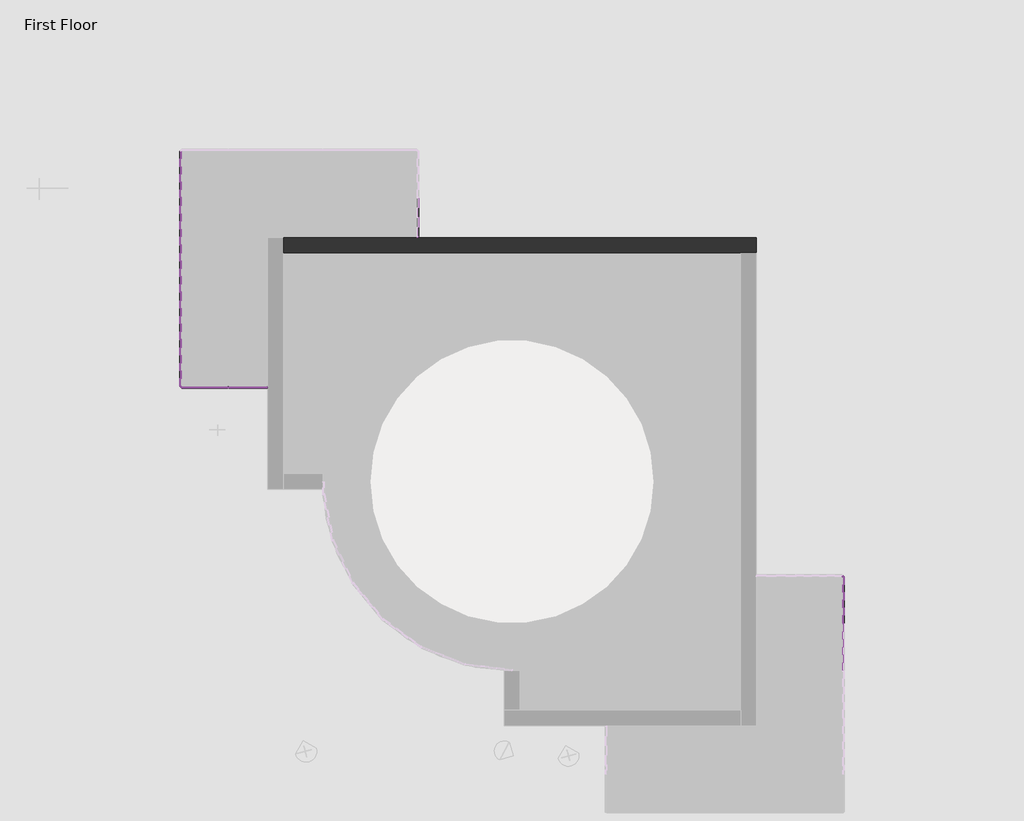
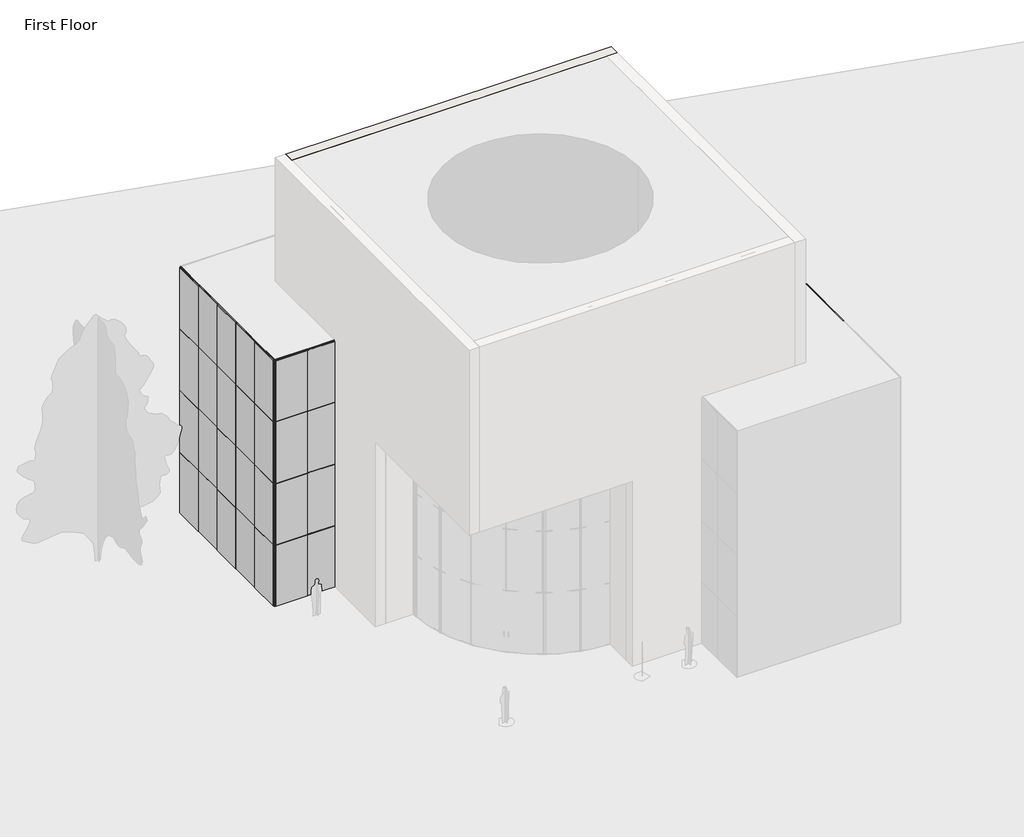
# One storey, part 3 of 4: 92 members, 36 plates, 1 wall.
"""IFC4 building model written with IfcOpenShell, lengths in millimetres."""

from ifc_helpers import new_model, si_unit, origin, place, context, project, spatial, faceted_brep, transform, mapped, element, save
from components import member_40ce1a5c, member_5e617a80, member_0d8d9af5, member_74941792, member_cbdb9076, member_7e523723, member_9fd3d903, member_6604d1e0, member_be0b070d, system_panel_glazed_9b7d687a, system_panel_glazed_3ccd4ad1, system_panel_glazed_9a901b4a, system_panel_glazed_ee91e337, system_panel_glazed_2d5e1d3d, system_panel_glazed_37964ea6, system_panel_glazed_a669fc9f, system_panel_glazed_51c864c8

model = new_model("IFC4")

# Units and contexts
model_context = context("Model", 3, world=origin())
ifc_project = project(units=[si_unit("LENGTHUNIT", "METRE", prefix="MILLI")], contexts=[model_context])

# Site, building, storey
site = spatial("IfcSite", under=ifc_project)
building = spatial("IfcBuilding", under=site)
storey = spatial("IfcBuildingStorey", under=building, Name="First Floor", Elevation=0.0)

# Members
placement = place(None, origin())
member_shape = member_40ce1a5c(model_context)
element("IfcMember", 1, ObjectType="Rectangular Mullion : 1\" Square", at=placement, inside=storey, context=model_context, shape_type="MappedRepresentation", body=[
    mapped(member_shape, transform((-10360.9806157, 2362.0139224, 6096.0), x_axis=(0.0, 0.0, 1.0), y_axis=(0.0, -1.0, 0.0), z_axis=(1.0, 0.0, 0.0))),
])
element("IfcMember", 2, ObjectType="Rectangular Mullion : 1\" Square", at=placement, inside=storey, context=model_context, shape_type="MappedRepresentation", body=[
    mapped(member_shape, transform((-10360.9806157, 2362.0139224, 9144.0), x_axis=(0.0, 0.0, 1.0), y_axis=(0.0, -1.0, 0.0), z_axis=(1.0, 0.0, 0.0))),
])
element("IfcMember", 3, ObjectType="Rectangular Mullion : 1\" Square", at=placement, inside=storey, context=model_context, shape_type="MappedRepresentation", body=[
    mapped(member_shape, transform((-10360.9806157, 2362.0139224, 3048.0), x_axis=(0.0, 0.0, 1.0), y_axis=(0.0, -1.0, 0.0), z_axis=(1.0, 0.0, 0.0))),
])
member_2_shape = member_5e617a80(model_context)
element("IfcMember", 4, ObjectType="Rectangular Mullion : 1\" Square", at=placement, inside=storey, context=model_context, shape_type="MappedRepresentation", body=[
    mapped(member_2_shape, transform((-11627.8056157, 2362.0139224, 9144.0), x_axis=(0.0, 0.0, 1.0), y_axis=(0.0, -1.0, 0.0), z_axis=(1.0, 0.0, 0.0))),
])
element("IfcMember", 5, ObjectType="Rectangular Mullion : 1\" Square", at=placement, inside=storey, context=model_context, shape_type="MappedRepresentation", body=[
    mapped(member_2_shape, transform((-11627.8056157, 2362.0139224, 6096.0), x_axis=(0.0, 0.0, 1.0), y_axis=(0.0, -1.0, 0.0), z_axis=(1.0, 0.0, 0.0))),
])
element("IfcMember", 6, ObjectType="Rectangular Mullion : 1\" Square", at=placement, inside=storey, context=model_context, shape_type="MappedRepresentation", body=[
    mapped(member_2_shape, transform((-11627.8056157, 2362.0139224, 3048.0), x_axis=(0.0, 0.0, 1.0), y_axis=(0.0, -1.0, 0.0), z_axis=(1.0, 0.0, 0.0))),
])
element("IfcMember", 7, ObjectType="Rectangular Mullion : 1\" Square", at=placement, inside=storey, context=model_context, shape_type="MappedRepresentation", body=[
    mapped(member_2_shape, transform((-13139.1056157, 8470.7139224, 3048.0), x_axis=(0.0, 0.0, 1.0), y_axis=(-1.0, 0.0, 0.0), z_axis=(0.0, -1.0, 0.0))),
])
element("IfcMember", 8, ObjectType="Rectangular Mullion : 1\" Square", at=placement, inside=storey, context=model_context, shape_type="MappedRepresentation", body=[
    mapped(member_2_shape, transform((-13139.1056157, 2387.4139224, 9144.0), x_axis=(0.0, 0.0, 1.0), y_axis=(-1.0, 0.0, 0.0), z_axis=(0.0, -1.0, 0.0))),
])
element("IfcMember", 9, ObjectType="Rectangular Mullion : 1\" Square", at=placement, inside=storey, context=model_context, shape_type="MappedRepresentation", body=[
    mapped(member_2_shape, transform((-13139.1056157, 2387.4139224, 3048.0), x_axis=(0.0, 0.0, 1.0), y_axis=(-1.0, 0.0, 0.0), z_axis=(0.0, -1.0, 0.0))),
])
element("IfcMember", 10, ObjectType="Rectangular Mullion : 1\" Square", at=placement, inside=storey, context=model_context, shape_type="MappedRepresentation", body=[
    mapped(member_2_shape, transform((-13139.1056157, 8470.7139224, 6096.0), x_axis=(0.0, 0.0, 1.0), y_axis=(-1.0, 0.0, 0.0), z_axis=(0.0, -1.0, 0.0))),
])
element("IfcMember", 11, ObjectType="Rectangular Mullion : 1\" Square", at=placement, inside=storey, context=model_context, shape_type="MappedRepresentation", body=[
    mapped(member_2_shape, transform((-13139.1056157, 2387.4139224, 6096.0), x_axis=(0.0, 0.0, 1.0), y_axis=(-1.0, 0.0, 0.0), z_axis=(0.0, -1.0, 0.0))),
])
element("IfcMember", 12, ObjectType="Rectangular Mullion : 1\" Square", at=placement, inside=storey, context=model_context, shape_type="MappedRepresentation", body=[
    mapped(member_2_shape, transform((-13139.1056157, 8470.7139224, 9144.0), x_axis=(0.0, 0.0, 1.0), y_axis=(-1.0, 0.0, 0.0), z_axis=(0.0, -1.0, 0.0))),
])
element("IfcMember", 13, ObjectType="Rectangular Mullion : 1\" Square", at=placement, inside=storey, context=model_context, shape_type="MappedRepresentation", body=[
    mapped(member_2_shape, transform((8196.8943843, -3759.3860776, 3048.0), x_axis=(0.0, 0.0, 1.0), y_axis=(1.0, 0.0, 0.0), z_axis=(0.0, 1.0, 0.0))),
])
element("IfcMember", 14, ObjectType="Rectangular Mullion : 1\" Square", at=placement, inside=storey, context=model_context, shape_type="MappedRepresentation", body=[
    mapped(member_2_shape, transform((8196.8943843, -3759.3860776, 6096.0), x_axis=(0.0, 0.0, 1.0), y_axis=(1.0, 0.0, 0.0), z_axis=(0.0, 1.0, 0.0))),
])
element("IfcMember", 15, ObjectType="Rectangular Mullion : 1\" Square", at=placement, inside=storey, context=model_context, shape_type="MappedRepresentation", body=[
    mapped(member_2_shape, transform((8196.8943843, -3759.3860776, 9144.0), x_axis=(0.0, 0.0, 1.0), y_axis=(1.0, 0.0, 0.0), z_axis=(0.0, 1.0, 0.0))),
])
member_3_shape = member_0d8d9af5(model_context)
element("IfcMember", 16, ObjectType="Rectangular Mullion : 1\" Square", at=placement, inside=storey, context=model_context, shape_type="MappedRepresentation", body=[
    mapped(member_3_shape, transform((-11602.4056157, 2362.0139224, 0.0), x_axis=(0.0, 0.0, -1.0), y_axis=(0.0, -1.0, 0.0), z_axis=(-1.0, 0.0, 0.0))),
])
member_4_shape = member_74941792(model_context)
element("IfcMember", 17, ObjectType="Rectangular Mullion : 1\" Square", at=placement, inside=storey, context=model_context, shape_type="MappedRepresentation", body=[
    mapped(member_4_shape, transform((-11627.8056157, 2362.0139224, 12192.0), x_axis=(0.0, 0.0, 1.0), y_axis=(0.0, -1.0, 0.0), z_axis=(1.0, 0.0, 0.0))),
])
element("IfcMember", 18, ObjectType="Rectangular Mullion : 1\" Square", at=placement, inside=storey, context=model_context, shape_type="MappedRepresentation", body=[
    mapped(member_4_shape, transform((-13139.1056157, 2387.4139224, 12192.0), x_axis=(0.0, 0.0, 1.0), y_axis=(-1.0, 0.0, 0.0), z_axis=(0.0, -1.0, 0.0))),
])
element("IfcMember", 19, ObjectType="Rectangular Mullion : 1\" Square", at=placement, inside=storey, context=model_context, shape_type="MappedRepresentation", body=[
    mapped(member_4_shape, transform((-13139.1056157, 8470.7139224, 12192.0), x_axis=(0.0, 0.0, 1.0), y_axis=(-1.0, 0.0, 0.0), z_axis=(0.0, -1.0, 0.0))),
])
element("IfcMember", 20, ObjectType="Rectangular Mullion : 1\" Square", at=placement, inside=storey, context=model_context, shape_type="MappedRepresentation", body=[
    mapped(member_4_shape, transform((8196.8943843, -3759.3860776, 12192.0), x_axis=(0.0, 0.0, 1.0), y_axis=(1.0, 0.0, 0.0), z_axis=(0.0, 1.0, 0.0))),
])
member_5_shape = member_cbdb9076(model_context)
element("IfcMember", 21, ObjectType="Rectangular Mullion : 1\" Square", at=placement, inside=storey, context=model_context, shape_type="MappedRepresentation", body=[
    mapped(member_5_shape, transform((-11615.1056157, 2362.0139224, 3048.0), x_axis=(1.0, 0.0, 0.0), y_axis=(0.0, -1.0, 0.0), z_axis=(0.0, 0.0, -1.0))),
])
element("IfcMember", 22, ObjectType="Rectangular Mullion : 1\" Square", at=placement, inside=storey, context=model_context, shape_type="MappedRepresentation", body=[
    mapped(member_5_shape, transform((-11615.1056157, 2362.0139224, 6096.0), x_axis=(1.0, 0.0, 0.0), y_axis=(0.0, -1.0, 0.0), z_axis=(0.0, 0.0, -1.0))),
])
element("IfcMember", 23, ObjectType="Rectangular Mullion : 1\" Square", at=placement, inside=storey, context=model_context, shape_type="MappedRepresentation", body=[
    mapped(member_5_shape, transform((-13139.1056157, 8458.0139224, 3048.0), x_axis=(0.0, -1.0, 0.0), y_axis=(-1.0, 0.0, 0.0), z_axis=(0.0, 0.0, -1.0))),
])
element("IfcMember", 24, ObjectType="Rectangular Mullion : 1\" Square", at=placement, inside=storey, context=model_context, shape_type="MappedRepresentation", body=[
    mapped(member_5_shape, transform((-13139.1056157, 8458.0139224, 6096.0), x_axis=(0.0, -1.0, 0.0), y_axis=(-1.0, 0.0, 0.0), z_axis=(0.0, 0.0, -1.0))),
])
element("IfcMember", 25, ObjectType="Rectangular Mullion : 1\" Square", at=placement, inside=storey, context=model_context, shape_type="MappedRepresentation", body=[
    mapped(member_5_shape, transform((-13139.1056157, 6934.0139224, 3048.0), x_axis=(0.0, -1.0, 0.0), y_axis=(-1.0, 0.0, 0.0), z_axis=(0.0, 0.0, -1.0))),
])
element("IfcMember", 26, ObjectType="Rectangular Mullion : 1\" Square", at=placement, inside=storey, context=model_context, shape_type="MappedRepresentation", body=[
    mapped(member_5_shape, transform((-13139.1056157, 6934.0139224, 6096.0), x_axis=(0.0, -1.0, 0.0), y_axis=(-1.0, 0.0, 0.0), z_axis=(0.0, 0.0, -1.0))),
])
element("IfcMember", 27, ObjectType="Rectangular Mullion : 1\" Square", at=placement, inside=storey, context=model_context, shape_type="MappedRepresentation", body=[
    mapped(member_5_shape, transform((-13139.1056157, 5410.0139224, 3048.0), x_axis=(0.0, -1.0, 0.0), y_axis=(-1.0, 0.0, 0.0), z_axis=(0.0, 0.0, -1.0))),
])
element("IfcMember", 28, ObjectType="Rectangular Mullion : 1\" Square", at=placement, inside=storey, context=model_context, shape_type="MappedRepresentation", body=[
    mapped(member_5_shape, transform((-13139.1056157, 5410.0139224, 6096.0), x_axis=(0.0, -1.0, 0.0), y_axis=(-1.0, 0.0, 0.0), z_axis=(0.0, 0.0, -1.0))),
])
element("IfcMember", 29, ObjectType="Rectangular Mullion : 1\" Square", at=placement, inside=storey, context=model_context, shape_type="MappedRepresentation", body=[
    mapped(member_5_shape, transform((-13139.1056157, 3886.0139224, 3048.0), x_axis=(0.0, -1.0, 0.0), y_axis=(-1.0, 0.0, 0.0), z_axis=(0.0, 0.0, -1.0))),
])
element("IfcMember", 30, ObjectType="Rectangular Mullion : 1\" Square", at=placement, inside=storey, context=model_context, shape_type="MappedRepresentation", body=[
    mapped(member_5_shape, transform((-13139.1056157, 3886.0139224, 6096.0), x_axis=(0.0, -1.0, 0.0), y_axis=(-1.0, 0.0, 0.0), z_axis=(0.0, 0.0, -1.0))),
])
element("IfcMember", 31, ObjectType="Rectangular Mullion : 1\" Square", at=placement, inside=storey, context=model_context, shape_type="MappedRepresentation", body=[
    mapped(member_5_shape, transform((-11615.1056157, 2362.0139224, 9144.0), x_axis=(1.0, 0.0, 0.0), y_axis=(0.0, -1.0, 0.0), z_axis=(0.0, 0.0, -1.0))),
])
element("IfcMember", 32, ObjectType="Rectangular Mullion : 1\" Square", at=placement, inside=storey, context=model_context, shape_type="MappedRepresentation", body=[
    mapped(member_5_shape, transform((-13139.1056157, 8458.0139224, 9144.0), x_axis=(0.0, -1.0, 0.0), y_axis=(-1.0, 0.0, 0.0), z_axis=(0.0, 0.0, -1.0))),
])
element("IfcMember", 33, ObjectType="Rectangular Mullion : 1\" Square", at=placement, inside=storey, context=model_context, shape_type="MappedRepresentation", body=[
    mapped(member_5_shape, transform((-13139.1056157, 6934.0139224, 9144.0), x_axis=(0.0, -1.0, 0.0), y_axis=(-1.0, 0.0, 0.0), z_axis=(0.0, 0.0, -1.0))),
])
element("IfcMember", 34, ObjectType="Rectangular Mullion : 1\" Square", at=placement, inside=storey, context=model_context, shape_type="MappedRepresentation", body=[
    mapped(member_5_shape, transform((-13139.1056157, 5410.0139224, 9144.0), x_axis=(0.0, -1.0, 0.0), y_axis=(-1.0, 0.0, 0.0), z_axis=(0.0, 0.0, -1.0))),
])
element("IfcMember", 35, ObjectType="Rectangular Mullion : 1\" Square", at=placement, inside=storey, context=model_context, shape_type="MappedRepresentation", body=[
    mapped(member_5_shape, transform((-13139.1056157, 3886.0139224, 9144.0), x_axis=(0.0, -1.0, 0.0), y_axis=(-1.0, 0.0, 0.0), z_axis=(0.0, 0.0, -1.0))),
])
element("IfcMember", 36, ObjectType="Rectangular Mullion : 1\" Square", at=placement, inside=storey, context=model_context, shape_type="MappedRepresentation", body=[
    mapped(member_5_shape, transform((-11615.1056157, 2362.0139224, 0.0), x_axis=(1.0, 0.0, 0.0), y_axis=(0.0, -1.0, 0.0), z_axis=(0.0, 0.0, -1.0))),
])
element("IfcMember", 37, ObjectType="Rectangular Mullion : 1\" Square", at=placement, inside=storey, context=model_context, shape_type="MappedRepresentation", body=[
    mapped(member_5_shape, transform((-13139.1056157, 8458.0139224, 0.0), x_axis=(0.0, -1.0, 0.0), y_axis=(-1.0, 0.0, 0.0), z_axis=(0.0, 0.0, -1.0))),
])
element("IfcMember", 38, ObjectType="Rectangular Mullion : 1\" Square", at=placement, inside=storey, context=model_context, shape_type="MappedRepresentation", body=[
    mapped(member_5_shape, transform((-13139.1056157, 6934.0139224, 0.0), x_axis=(0.0, -1.0, 0.0), y_axis=(-1.0, 0.0, 0.0), z_axis=(0.0, 0.0, -1.0))),
])
element("IfcMember", 39, ObjectType="Rectangular Mullion : 1\" Square", at=placement, inside=storey, context=model_context, shape_type="MappedRepresentation", body=[
    mapped(member_5_shape, transform((-13139.1056157, 5410.0139224, 0.0), x_axis=(0.0, -1.0, 0.0), y_axis=(-1.0, 0.0, 0.0), z_axis=(0.0, 0.0, -1.0))),
])
element("IfcMember", 40, ObjectType="Rectangular Mullion : 1\" Square", at=placement, inside=storey, context=model_context, shape_type="MappedRepresentation", body=[
    mapped(member_5_shape, transform((-13139.1056157, 3886.0139224, 0.0), x_axis=(0.0, -1.0, 0.0), y_axis=(-1.0, 0.0, 0.0), z_axis=(0.0, 0.0, -1.0))),
])
element("IfcMember", 41, ObjectType="Rectangular Mullion : 1\" Square", at=placement, inside=storey, context=model_context, shape_type="MappedRepresentation", body=[
    mapped(member_5_shape, transform((8196.8943843, -5257.9860776, 0.0), x_axis=(0.0, 1.0, 0.0), y_axis=(1.0, 0.0, 0.0), z_axis=(0.0, 0.0, -1.0))),
])
element("IfcMember", 42, ObjectType="Rectangular Mullion : 1\" Square", at=placement, inside=storey, context=model_context, shape_type="MappedRepresentation", body=[
    mapped(member_4_shape, transform((-13113.7056157, 2362.0139224, 0.0), x_axis=(0.0, 0.0, -1.0), y_axis=(0.0, -1.0, 0.0), z_axis=(-1.0, 0.0, 0.0))),
])
element("IfcMember", 43, ObjectType="Rectangular Mullion : 1\" Square", at=placement, inside=storey, context=model_context, shape_type="MappedRepresentation", body=[
    mapped(member_4_shape, transform((-13139.1056157, 9956.6139224, 0.0), x_axis=(0.0, 0.0, -1.0), y_axis=(-1.0, 0.0, 0.0), z_axis=(0.0, 1.0, 0.0))),
])
element("IfcMember", 44, ObjectType="Rectangular Mullion : 1\" Square", at=placement, inside=storey, context=model_context, shape_type="MappedRepresentation", body=[
    mapped(member_4_shape, transform((-13139.1056157, 3873.3139224, 0.0), x_axis=(0.0, 0.0, -1.0), y_axis=(-1.0, 0.0, 0.0), z_axis=(0.0, 1.0, 0.0))),
])
element("IfcMember", 45, ObjectType="Rectangular Mullion : 1\" Square", at=placement, inside=storey, context=model_context, shape_type="MappedRepresentation", body=[
    mapped(member_4_shape, transform((8196.8943843, -5245.2860776, 0.0), x_axis=(0.0, 0.0, -1.0), y_axis=(1.0, 0.0, 0.0), z_axis=(0.0, -1.0, 0.0))),
])
element("IfcMember", 46, ObjectType="Rectangular Mullion : 1\" Square", at=placement, inside=storey, context=model_context, shape_type="MappedRepresentation", body=[
    mapped(member_4_shape, transform((8171.4943843, -3733.9860776, 0.0), x_axis=(0.0, 0.0, -1.0), y_axis=(0.0, 1.0, 0.0), z_axis=(1.0, 0.0, 0.0))),
])
element("IfcMember", 47, ObjectType="Rectangular Mullion : 1\" Square", at=placement, inside=storey, context=model_context, shape_type="MappedRepresentation", body=[
    mapped(member_3_shape, transform((-10360.9806157, 2362.0139224, 12192.0), x_axis=(0.0, 0.0, 1.0), y_axis=(0.0, -1.0, 0.0), z_axis=(1.0, 0.0, 0.0))),
])
member_6_shape = member_7e523723(model_context)
element("IfcMember", 48, ObjectType="Rectangular Mullion : 1\" Square", at=placement, inside=storey, context=model_context, shape_type="MappedRepresentation", body=[
    mapped(member_6_shape, transform((-13139.1056157, 2362.0139224, 12192.0), x_axis=(-1.0, 0.0, 0.0), y_axis=(0.0, -1.0, 0.0), z_axis=(0.0, 0.0, 1.0))),
])
element("IfcMember", 49, ObjectType="Rectangular Mullion : 1\" Square", at=placement, inside=storey, context=model_context, shape_type="MappedRepresentation", body=[
    mapped(member_6_shape, transform((-13139.1056157, 9982.0139224, 12192.0), x_axis=(0.0, 1.0, 0.0), y_axis=(-1.0, 0.0, 0.0), z_axis=(0.0, 0.0, 1.0))),
])
element("IfcMember", 50, ObjectType="Rectangular Mullion : 1\" Square", at=placement, inside=storey, context=model_context, shape_type="MappedRepresentation", body=[
    mapped(member_6_shape, transform((8196.8943843, -3733.9860776, 12192.0), x_axis=(1.0, 0.0, 0.0), y_axis=(0.0, 1.0, 0.0), z_axis=(0.0, 0.0, 1.0))),
])
element("IfcMember", 51, ObjectType="Rectangular Mullion : 1\" Square", at=placement, inside=storey, context=model_context, shape_type="MappedRepresentation", body=[
    mapped(member_6_shape, transform((-5519.1056157, 7178.4889224, 12192.0), x_axis=(0.0, -1.0, 0.0), y_axis=(1.0, 0.0, 0.0), z_axis=(0.0, 0.0, 1.0))),
])
element("IfcMember", 52, ObjectType="Rectangular Mullion : 1\" Square", at=placement, inside=storey, context=model_context, shape_type="MappedRepresentation", body=[
    mapped(member_6_shape, transform((-10335.5806157, 2362.0139224, 3048.0), x_axis=(1.0, 0.0, 0.0), y_axis=(0.0, -1.0, 0.0), z_axis=(0.0, 0.0, -1.0))),
])
element("IfcMember", 53, ObjectType="Rectangular Mullion : 1\" Square", at=placement, inside=storey, context=model_context, shape_type="MappedRepresentation", body=[
    mapped(member_6_shape, transform((-10335.5806157, 2362.0139224, 6096.0), x_axis=(1.0, 0.0, 0.0), y_axis=(0.0, -1.0, 0.0), z_axis=(0.0, 0.0, -1.0))),
])
element("IfcMember", 54, ObjectType="Rectangular Mullion : 1\" Square", at=placement, inside=storey, context=model_context, shape_type="MappedRepresentation", body=[
    mapped(member_6_shape, transform((-13139.1056157, 2362.0139224, 3048.0), x_axis=(0.0, -1.0, 0.0), y_axis=(-1.0, 0.0, 0.0), z_axis=(0.0, 0.0, -1.0))),
])
element("IfcMember", 55, ObjectType="Rectangular Mullion : 1\" Square", at=placement, inside=storey, context=model_context, shape_type="MappedRepresentation", body=[
    mapped(member_6_shape, transform((-13139.1056157, 2362.0139224, 6096.0), x_axis=(0.0, -1.0, 0.0), y_axis=(-1.0, 0.0, 0.0), z_axis=(0.0, 0.0, -1.0))),
])
element("IfcMember", 56, ObjectType="Rectangular Mullion : 1\" Square", at=placement, inside=storey, context=model_context, shape_type="MappedRepresentation", body=[
    mapped(member_6_shape, transform((8196.8943843, -3733.9860776, 3048.0), x_axis=(0.0, 1.0, 0.0), y_axis=(1.0, 0.0, 0.0), z_axis=(0.0, 0.0, -1.0))),
])
element("IfcMember", 57, ObjectType="Rectangular Mullion : 1\" Square", at=placement, inside=storey, context=model_context, shape_type="MappedRepresentation", body=[
    mapped(member_6_shape, transform((8196.8943843, -3733.9860776, 6096.0), x_axis=(0.0, 1.0, 0.0), y_axis=(1.0, 0.0, 0.0), z_axis=(0.0, 0.0, -1.0))),
])
element("IfcMember", 58, ObjectType="Rectangular Mullion : 1\" Square", at=placement, inside=storey, context=model_context, shape_type="MappedRepresentation", body=[
    mapped(member_6_shape, transform((-10335.5806157, 2362.0139224, 9144.0), x_axis=(1.0, 0.0, 0.0), y_axis=(0.0, -1.0, 0.0), z_axis=(0.0, 0.0, -1.0))),
])
element("IfcMember", 59, ObjectType="Rectangular Mullion : 1\" Square", at=placement, inside=storey, context=model_context, shape_type="MappedRepresentation", body=[
    mapped(member_6_shape, transform((-13139.1056157, 2362.0139224, 9144.0), x_axis=(0.0, -1.0, 0.0), y_axis=(-1.0, 0.0, 0.0), z_axis=(0.0, 0.0, -1.0))),
])
element("IfcMember", 60, ObjectType="Rectangular Mullion : 1\" Square", at=placement, inside=storey, context=model_context, shape_type="MappedRepresentation", body=[
    mapped(member_6_shape, transform((8196.8943843, -3733.9860776, 9144.0), x_axis=(0.0, 1.0, 0.0), y_axis=(1.0, 0.0, 0.0), z_axis=(0.0, 0.0, -1.0))),
])
element("IfcMember", 61, ObjectType="Rectangular Mullion : 1\" Square", at=placement, inside=storey, context=model_context, shape_type="MappedRepresentation", body=[
    mapped(member_6_shape, transform((-13139.1056157, 2362.0139224, 3048.0), x_axis=(-1.0, 0.0, 0.0), y_axis=(0.0, -1.0, 0.0), z_axis=(0.0, 0.0, 1.0))),
])
element("IfcMember", 62, ObjectType="Rectangular Mullion : 1\" Square", at=placement, inside=storey, context=model_context, shape_type="MappedRepresentation", body=[
    mapped(member_6_shape, transform((8196.8943843, -3733.9860776, 3048.0), x_axis=(1.0, 0.0, 0.0), y_axis=(0.0, 1.0, 0.0), z_axis=(0.0, 0.0, 1.0))),
])
element("IfcMember", 63, ObjectType="Rectangular Mullion : 1\" Square", at=placement, inside=storey, context=model_context, shape_type="MappedRepresentation", body=[
    mapped(member_6_shape, transform((-5519.1056157, 7178.4889224, 3048.0), x_axis=(0.0, -1.0, 0.0), y_axis=(1.0, 0.0, 0.0), z_axis=(0.0, 0.0, 1.0))),
])
element("IfcMember", 64, ObjectType="Rectangular Mullion : 1\" Square", at=placement, inside=storey, context=model_context, shape_type="MappedRepresentation", body=[
    mapped(member_6_shape, transform((-13139.1056157, 2362.0139224, 6096.0), x_axis=(-1.0, 0.0, 0.0), y_axis=(0.0, -1.0, 0.0), z_axis=(0.0, 0.0, 1.0))),
])
element("IfcMember", 65, ObjectType="Rectangular Mullion : 1\" Square", at=placement, inside=storey, context=model_context, shape_type="MappedRepresentation", body=[
    mapped(member_6_shape, transform((-13139.1056157, 2362.0139224, 9144.0), x_axis=(-1.0, 0.0, 0.0), y_axis=(0.0, -1.0, 0.0), z_axis=(0.0, 0.0, 1.0))),
])
element("IfcMember", 66, ObjectType="Rectangular Mullion : 1\" Square", at=placement, inside=storey, context=model_context, shape_type="MappedRepresentation", body=[
    mapped(member_6_shape, transform((8196.8943843, -3733.9860776, 6096.0), x_axis=(1.0, 0.0, 0.0), y_axis=(0.0, 1.0, 0.0), z_axis=(0.0, 0.0, 1.0))),
])
element("IfcMember", 67, ObjectType="Rectangular Mullion : 1\" Square", at=placement, inside=storey, context=model_context, shape_type="MappedRepresentation", body=[
    mapped(member_6_shape, transform((8196.8943843, -3733.9860776, 9144.0), x_axis=(1.0, 0.0, 0.0), y_axis=(0.0, 1.0, 0.0), z_axis=(0.0, 0.0, 1.0))),
])
element("IfcMember", 68, ObjectType="Rectangular Mullion : 1\" Square", at=placement, inside=storey, context=model_context, shape_type="MappedRepresentation", body=[
    mapped(member_6_shape, transform((-5519.1056157, 7178.4889224, 6096.0), x_axis=(0.0, -1.0, 0.0), y_axis=(1.0, 0.0, 0.0), z_axis=(0.0, 0.0, 1.0))),
])
element("IfcMember", 69, ObjectType="Rectangular Mullion : 1\" Square", at=placement, inside=storey, context=model_context, shape_type="MappedRepresentation", body=[
    mapped(member_6_shape, transform((-5519.1056157, 7178.4889224, 9144.0), x_axis=(0.0, -1.0, 0.0), y_axis=(1.0, 0.0, 0.0), z_axis=(0.0, 0.0, 1.0))),
])
element("IfcMember", 70, ObjectType="Rectangular Mullion : 1\" Square", at=placement, inside=storey, context=model_context, shape_type="MappedRepresentation", body=[
    mapped(member_6_shape, transform((-10335.5806157, 2362.0139224, 0.0), x_axis=(1.0, 0.0, 0.0), y_axis=(0.0, -1.0, 0.0), z_axis=(0.0, 0.0, -1.0))),
])
element("IfcMember", 71, ObjectType="Rectangular Mullion : 1\" Square", at=placement, inside=storey, context=model_context, shape_type="MappedRepresentation", body=[
    mapped(member_6_shape, transform((-13139.1056157, 2362.0139224, 0.0), x_axis=(0.0, -1.0, 0.0), y_axis=(-1.0, 0.0, 0.0), z_axis=(0.0, 0.0, -1.0))),
])
element("IfcMember", 72, ObjectType="Rectangular Mullion : 1\" Square", at=placement, inside=storey, context=model_context, shape_type="MappedRepresentation", body=[
    mapped(member_6_shape, transform((8196.8943843, -3733.9860776, 0.0), x_axis=(0.0, 1.0, 0.0), y_axis=(1.0, 0.0, 0.0), z_axis=(0.0, 0.0, -1.0))),
])
member_7_shape = member_9fd3d903(model_context)
element("IfcMember", 73, ObjectType="Rectangular Mullion : 1\" Square", at=placement, inside=storey, context=model_context, shape_type="MappedRepresentation", body=[
    mapped(member_7_shape, transform((-13139.1056157, 6946.7139224, 3048.0), x_axis=(0.0, 0.0, 1.0), y_axis=(-1.0, 0.0, 0.0), z_axis=(0.0, -1.0, 0.0))),
])
element("IfcMember", 74, ObjectType="Rectangular Mullion : 1\" Square", at=placement, inside=storey, context=model_context, shape_type="MappedRepresentation", body=[
    mapped(member_7_shape, transform((-13139.1056157, 5422.7139224, 3048.0), x_axis=(0.0, 0.0, 1.0), y_axis=(-1.0, 0.0, 0.0), z_axis=(0.0, -1.0, 0.0))),
])
element("IfcMember", 75, ObjectType="Rectangular Mullion : 1\" Square", at=placement, inside=storey, context=model_context, shape_type="MappedRepresentation", body=[
    mapped(member_7_shape, transform((-13139.1056157, 3898.7139224, 3048.0), x_axis=(0.0, 0.0, 1.0), y_axis=(-1.0, 0.0, 0.0), z_axis=(0.0, -1.0, 0.0))),
])
element("IfcMember", 76, ObjectType="Rectangular Mullion : 1\" Square", at=placement, inside=storey, context=model_context, shape_type="MappedRepresentation", body=[
    mapped(member_7_shape, transform((-13139.1056157, 6946.7139224, 6096.0), x_axis=(0.0, 0.0, 1.0), y_axis=(-1.0, 0.0, 0.0), z_axis=(0.0, -1.0, 0.0))),
])
element("IfcMember", 77, ObjectType="Rectangular Mullion : 1\" Square", at=placement, inside=storey, context=model_context, shape_type="MappedRepresentation", body=[
    mapped(member_7_shape, transform((-13139.1056157, 5422.7139224, 6096.0), x_axis=(0.0, 0.0, 1.0), y_axis=(-1.0, 0.0, 0.0), z_axis=(0.0, -1.0, 0.0))),
])
element("IfcMember", 78, ObjectType="Rectangular Mullion : 1\" Square", at=placement, inside=storey, context=model_context, shape_type="MappedRepresentation", body=[
    mapped(member_7_shape, transform((-13139.1056157, 3898.7139224, 6096.0), x_axis=(0.0, 0.0, 1.0), y_axis=(-1.0, 0.0, 0.0), z_axis=(0.0, -1.0, 0.0))),
])
element("IfcMember", 79, ObjectType="Rectangular Mullion : 1\" Square", at=placement, inside=storey, context=model_context, shape_type="MappedRepresentation", body=[
    mapped(member_7_shape, transform((-13139.1056157, 6946.7139224, 9144.0), x_axis=(0.0, 0.0, 1.0), y_axis=(-1.0, 0.0, 0.0), z_axis=(0.0, -1.0, 0.0))),
])
element("IfcMember", 80, ObjectType="Rectangular Mullion : 1\" Square", at=placement, inside=storey, context=model_context, shape_type="MappedRepresentation", body=[
    mapped(member_7_shape, transform((-13139.1056157, 5422.7139224, 9144.0), x_axis=(0.0, 0.0, 1.0), y_axis=(-1.0, 0.0, 0.0), z_axis=(0.0, -1.0, 0.0))),
])
element("IfcMember", 81, ObjectType="Rectangular Mullion : 1\" Square", at=placement, inside=storey, context=model_context, shape_type="MappedRepresentation", body=[
    mapped(member_7_shape, transform((-13139.1056157, 3898.7139224, 9144.0), x_axis=(0.0, 0.0, 1.0), y_axis=(-1.0, 0.0, 0.0), z_axis=(0.0, -1.0, 0.0))),
])
element("IfcMember", 82, ObjectType="Rectangular Mullion : 1\" Square", at=placement, inside=storey, context=model_context, shape_type="MappedRepresentation", body=[
    mapped(member_7_shape, transform((8196.8943843, -5270.6860776, 3048.0), x_axis=(0.0, 0.0, 1.0), y_axis=(1.0, 0.0, 0.0), z_axis=(0.0, 1.0, 0.0))),
])
element("IfcMember", 83, ObjectType="Rectangular Mullion : 1\" Square", at=placement, inside=storey, context=model_context, shape_type="MappedRepresentation", body=[
    mapped(member_7_shape, transform((8196.8943843, -5270.6860776, 6096.0), x_axis=(0.0, 0.0, 1.0), y_axis=(1.0, 0.0, 0.0), z_axis=(0.0, 1.0, 0.0))),
])
element("IfcMember", 84, ObjectType="Rectangular Mullion : 1\" Square", at=placement, inside=storey, context=model_context, shape_type="MappedRepresentation", body=[
    mapped(member_7_shape, transform((8196.8943843, -5270.6860776, 9144.0), x_axis=(0.0, 0.0, 1.0), y_axis=(1.0, 0.0, 0.0), z_axis=(0.0, 1.0, 0.0))),
])
member_8_shape = member_6604d1e0(model_context)
element("IfcMember", 85, ObjectType="Rectangular Mullion : 1\" Square", at=placement, inside=storey, context=model_context, shape_type="MappedRepresentation", body=[
    mapped(member_8_shape, transform((-13139.1056157, 3898.7139224, 12192.0), x_axis=(0.0, 0.0, 1.0), y_axis=(-1.0, 0.0, 0.0), z_axis=(0.0, -1.0, 0.0))),
])
element("IfcMember", 86, ObjectType="Rectangular Mullion : 1\" Square", at=placement, inside=storey, context=model_context, shape_type="MappedRepresentation", body=[
    mapped(member_8_shape, transform((-13139.1056157, 6946.7139224, 12192.0), x_axis=(0.0, 0.0, 1.0), y_axis=(-1.0, 0.0, 0.0), z_axis=(0.0, -1.0, 0.0))),
])
element("IfcMember", 87, ObjectType="Rectangular Mullion : 1\" Square", at=placement, inside=storey, context=model_context, shape_type="MappedRepresentation", body=[
    mapped(member_8_shape, transform((-13139.1056157, 5422.7139224, 12192.0), x_axis=(0.0, 0.0, 1.0), y_axis=(-1.0, 0.0, 0.0), z_axis=(0.0, -1.0, 0.0))),
])
element("IfcMember", 88, ObjectType="Rectangular Mullion : 1\" Square", at=placement, inside=storey, context=model_context, shape_type="MappedRepresentation", body=[
    mapped(member_8_shape, transform((8196.8943843, -5270.6860776, 12192.0), x_axis=(0.0, 0.0, 1.0), y_axis=(1.0, 0.0, 0.0), z_axis=(0.0, 1.0, 0.0))),
])
element("IfcMember", 89, ObjectType="Rectangular Mullion : 1\" Square", at=placement, inside=storey, context=model_context, shape_type="MappedRepresentation", body=[
    mapped(member_8_shape, transform((-13139.1056157, 8445.3139224, 0.0), x_axis=(0.0, 0.0, -1.0), y_axis=(-1.0, 0.0, 0.0), z_axis=(0.0, 1.0, 0.0))),
])
element("IfcMember", 90, ObjectType="Rectangular Mullion : 1\" Square", at=placement, inside=storey, context=model_context, shape_type="MappedRepresentation", body=[
    mapped(member_8_shape, transform((-13139.1056157, 6921.3139224, 0.0), x_axis=(0.0, 0.0, -1.0), y_axis=(-1.0, 0.0, 0.0), z_axis=(0.0, 1.0, 0.0))),
])
element("IfcMember", 91, ObjectType="Rectangular Mullion : 1\" Square", at=placement, inside=storey, context=model_context, shape_type="MappedRepresentation", body=[
    mapped(member_8_shape, transform((-13139.1056157, 5397.3139224, 0.0), x_axis=(0.0, 0.0, -1.0), y_axis=(-1.0, 0.0, 0.0), z_axis=(0.0, 1.0, 0.0))),
])
member_9_shape = member_be0b070d(model_context)
element("IfcMember", 92, ObjectType="Rectangular Mullion : 1\" Square", at=placement, inside=storey, context=model_context, shape_type="MappedRepresentation", body=[
    mapped(member_9_shape, transform((-5519.1056157, 7203.8889224, 0.0), x_axis=(0.0, 0.0, -1.0), y_axis=(1.0, 0.0, 0.0), z_axis=(0.0, -1.0, 0.0))),
])

# Plates
system_panel_glazed_shape = system_panel_glazed_9b7d687a(model_context)
element("IfcPlate", 93, ObjectType="System Panel : Glazed", at=placement, inside=storey, context=model_context, shape_type="MappedRepresentation", body=[
    mapped(system_panel_glazed_shape, transform((-13139.1056157, 9213.6639224, 25.4), x_axis=(0.0, -1.0, 0.0), y_axis=(1.0, 0.0, 0.0), z_axis=(0.0, 0.0, 1.0))),
])
element("IfcPlate", 94, ObjectType="System Panel : Glazed", at=placement, inside=storey, context=model_context, shape_type="MappedRepresentation", body=[
    mapped(system_panel_glazed_shape, transform((-13139.1056157, 3130.3639224, 25.4), x_axis=(0.0, -1.0, 0.0), y_axis=(1.0, 0.0, 0.0), z_axis=(0.0, 0.0, 1.0))),
])
element("IfcPlate", 95, ObjectType="System Panel : Glazed", at=placement, inside=storey, context=model_context, shape_type="MappedRepresentation", body=[
    mapped(system_panel_glazed_shape, transform((-13139.1056157, 9213.6639224, 9156.7), x_axis=(0.0, -1.0, 0.0), y_axis=(1.0, 0.0, 0.0), z_axis=(0.0, 0.0, 1.0))),
])
element("IfcPlate", 96, ObjectType="System Panel : Glazed", at=placement, inside=storey, context=model_context, shape_type="MappedRepresentation", body=[
    mapped(system_panel_glazed_shape, transform((-13139.1056157, 3130.3639224, 9156.7), x_axis=(0.0, -1.0, 0.0), y_axis=(1.0, 0.0, 0.0), z_axis=(0.0, 0.0, 1.0))),
])
element("IfcPlate", 97, ObjectType="System Panel : Glazed", at=placement, inside=storey, context=model_context, shape_type="MappedRepresentation", body=[
    mapped(system_panel_glazed_shape, transform((-12370.7556157, 2362.0139224, 25.4), x_axis=(1.0, 0.0, 0.0), y_axis=(0.0, 1.0, 0.0), z_axis=(0.0, 0.0, 1.0))),
])
element("IfcPlate", 98, ObjectType="System Panel : Glazed", at=placement, inside=storey, context=model_context, shape_type="MappedRepresentation", body=[
    mapped(system_panel_glazed_shape, transform((-12370.7556157, 2362.0139224, 9156.7), x_axis=(1.0, 0.0, 0.0), y_axis=(0.0, 1.0, 0.0), z_axis=(0.0, 0.0, 1.0))),
])
element("IfcPlate", 99, ObjectType="System Panel : Glazed", at=placement, inside=storey, context=model_context, shape_type="MappedRepresentation", body=[
    mapped(system_panel_glazed_shape, transform((8196.8943843, -4502.3360776, 25.4), x_axis=(0.0, 1.0, 0.0), y_axis=(-1.0, 0.0, 0.0), z_axis=(0.0, 0.0, 1.0))),
])
element("IfcPlate", 100, ObjectType="System Panel : Glazed", at=placement, inside=storey, context=model_context, shape_type="MappedRepresentation", body=[
    mapped(system_panel_glazed_shape, transform((8196.8943843, -4502.3360776, 9156.7), x_axis=(0.0, 1.0, 0.0), y_axis=(-1.0, 0.0, 0.0), z_axis=(0.0, 0.0, 1.0))),
])
system_panel_glazed_2_shape = system_panel_glazed_3ccd4ad1(model_context)
element("IfcPlate", 101, ObjectType="System Panel : Glazed", at=placement, inside=storey, context=model_context, shape_type="MappedRepresentation", body=[
    mapped(system_panel_glazed_2_shape, transform((-10981.6931157, 2362.0139224, 25.4), x_axis=(1.0, 0.0, 0.0), y_axis=(0.0, 1.0, 0.0), z_axis=(0.0, 0.0, 1.0))),
])
element("IfcPlate", 102, ObjectType="System Panel : Glazed", at=placement, inside=storey, context=model_context, shape_type="MappedRepresentation", body=[
    mapped(system_panel_glazed_2_shape, transform((-10981.6931157, 2362.0139224, 9156.7), x_axis=(1.0, 0.0, 0.0), y_axis=(0.0, 1.0, 0.0), z_axis=(0.0, 0.0, 1.0))),
])
system_panel_glazed_3_shape = system_panel_glazed_9a901b4a(model_context)
element("IfcPlate", 103, ObjectType="System Panel : Glazed", at=placement, inside=storey, context=model_context, shape_type="MappedRepresentation", body=[
    mapped(system_panel_glazed_3_shape, transform((-13139.1056157, 9213.6639224, 3060.7), x_axis=(0.0, -1.0, 0.0), y_axis=(1.0, 0.0, 0.0), z_axis=(0.0, 0.0, 1.0))),
])
element("IfcPlate", 104, ObjectType="System Panel : Glazed", at=placement, inside=storey, context=model_context, shape_type="MappedRepresentation", body=[
    mapped(system_panel_glazed_3_shape, transform((-13139.1056157, 3130.3639224, 3060.7), x_axis=(0.0, -1.0, 0.0), y_axis=(1.0, 0.0, 0.0), z_axis=(0.0, 0.0, 1.0))),
])
element("IfcPlate", 105, ObjectType="System Panel : Glazed", at=placement, inside=storey, context=model_context, shape_type="MappedRepresentation", body=[
    mapped(system_panel_glazed_3_shape, transform((-13139.1056157, 9213.6639224, 6108.7), x_axis=(0.0, -1.0, 0.0), y_axis=(1.0, 0.0, 0.0), z_axis=(0.0, 0.0, 1.0))),
])
element("IfcPlate", 106, ObjectType="System Panel : Glazed", at=placement, inside=storey, context=model_context, shape_type="MappedRepresentation", body=[
    mapped(system_panel_glazed_3_shape, transform((-13139.1056157, 3130.3639224, 6108.7), x_axis=(0.0, -1.0, 0.0), y_axis=(1.0, 0.0, 0.0), z_axis=(0.0, 0.0, 1.0))),
])
element("IfcPlate", 107, ObjectType="System Panel : Glazed", at=placement, inside=storey, context=model_context, shape_type="MappedRepresentation", body=[
    mapped(system_panel_glazed_3_shape, transform((-12370.7556157, 2362.0139224, 3060.7), x_axis=(1.0, 0.0, 0.0), y_axis=(0.0, 1.0, 0.0), z_axis=(0.0, 0.0, 1.0))),
])
element("IfcPlate", 108, ObjectType="System Panel : Glazed", at=placement, inside=storey, context=model_context, shape_type="MappedRepresentation", body=[
    mapped(system_panel_glazed_3_shape, transform((-12370.7556157, 2362.0139224, 6108.7), x_axis=(1.0, 0.0, 0.0), y_axis=(0.0, 1.0, 0.0), z_axis=(0.0, 0.0, 1.0))),
])
element("IfcPlate", 109, ObjectType="System Panel : Glazed", at=placement, inside=storey, context=model_context, shape_type="MappedRepresentation", body=[
    mapped(system_panel_glazed_3_shape, transform((8196.8943843, -4502.3360776, 3060.7), x_axis=(0.0, 1.0, 0.0), y_axis=(-1.0, 0.0, 0.0), z_axis=(0.0, 0.0, 1.0))),
])
element("IfcPlate", 110, ObjectType="System Panel : Glazed", at=placement, inside=storey, context=model_context, shape_type="MappedRepresentation", body=[
    mapped(system_panel_glazed_3_shape, transform((8196.8943843, -4502.3360776, 6108.7), x_axis=(0.0, 1.0, 0.0), y_axis=(-1.0, 0.0, 0.0), z_axis=(0.0, 0.0, 1.0))),
])
system_panel_glazed_4_shape = system_panel_glazed_ee91e337(model_context)
element("IfcPlate", 111, ObjectType="System Panel : Glazed", at=placement, inside=storey, context=model_context, shape_type="MappedRepresentation", body=[
    mapped(system_panel_glazed_4_shape, transform((-10981.6931157, 2362.0139224, 3060.7), x_axis=(1.0, 0.0, 0.0), y_axis=(0.0, 1.0, 0.0), z_axis=(0.0, 0.0, 1.0))),
])
element("IfcPlate", 112, ObjectType="System Panel : Glazed", at=placement, inside=storey, context=model_context, shape_type="MappedRepresentation", body=[
    mapped(system_panel_glazed_4_shape, transform((-10981.6931157, 2362.0139224, 6108.7), x_axis=(1.0, 0.0, 0.0), y_axis=(0.0, 1.0, 0.0), z_axis=(0.0, 0.0, 1.0))),
])
system_panel_glazed_5_shape = system_panel_glazed_2d5e1d3d(model_context)
element("IfcPlate", 113, ObjectType="System Panel : Glazed", at=placement, inside=storey, context=model_context, shape_type="MappedRepresentation", body=[
    mapped(system_panel_glazed_5_shape, transform((-13139.1056157, 7696.0139224, 25.4), x_axis=(0.0, -1.0, 0.0), y_axis=(1.0, 0.0, 0.0), z_axis=(0.0, 0.0, 1.0))),
])
element("IfcPlate", 114, ObjectType="System Panel : Glazed", at=placement, inside=storey, context=model_context, shape_type="MappedRepresentation", body=[
    mapped(system_panel_glazed_5_shape, transform((-13139.1056157, 6172.0139224, 25.4), x_axis=(0.0, -1.0, 0.0), y_axis=(1.0, 0.0, 0.0), z_axis=(0.0, 0.0, 1.0))),
])
element("IfcPlate", 115, ObjectType="System Panel : Glazed", at=placement, inside=storey, context=model_context, shape_type="MappedRepresentation", body=[
    mapped(system_panel_glazed_5_shape, transform((-13139.1056157, 4648.0139224, 25.4), x_axis=(0.0, -1.0, 0.0), y_axis=(1.0, 0.0, 0.0), z_axis=(0.0, 0.0, 1.0))),
])
element("IfcPlate", 116, ObjectType="System Panel : Glazed", at=placement, inside=storey, context=model_context, shape_type="MappedRepresentation", body=[
    mapped(system_panel_glazed_5_shape, transform((-13139.1056157, 7696.0139224, 9156.7), x_axis=(0.0, -1.0, 0.0), y_axis=(1.0, 0.0, 0.0), z_axis=(0.0, 0.0, 1.0))),
])
element("IfcPlate", 117, ObjectType="System Panel : Glazed", at=placement, inside=storey, context=model_context, shape_type="MappedRepresentation", body=[
    mapped(system_panel_glazed_5_shape, transform((-13139.1056157, 6172.0139224, 9156.7), x_axis=(0.0, -1.0, 0.0), y_axis=(1.0, 0.0, 0.0), z_axis=(0.0, 0.0, 1.0))),
])
element("IfcPlate", 118, ObjectType="System Panel : Glazed", at=placement, inside=storey, context=model_context, shape_type="MappedRepresentation", body=[
    mapped(system_panel_glazed_5_shape, transform((-13139.1056157, 4648.0139224, 9156.7), x_axis=(0.0, -1.0, 0.0), y_axis=(1.0, 0.0, 0.0), z_axis=(0.0, 0.0, 1.0))),
])
system_panel_glazed_6_shape = system_panel_glazed_37964ea6(model_context)
element("IfcPlate", 119, ObjectType="System Panel : Glazed", at=placement, inside=storey, context=model_context, shape_type="MappedRepresentation", body=[
    mapped(system_panel_glazed_6_shape, transform((-13139.1056157, 7696.0139224, 3060.7), x_axis=(0.0, -1.0, 0.0), y_axis=(1.0, 0.0, 0.0), z_axis=(0.0, 0.0, 1.0))),
])
element("IfcPlate", 120, ObjectType="System Panel : Glazed", at=placement, inside=storey, context=model_context, shape_type="MappedRepresentation", body=[
    mapped(system_panel_glazed_6_shape, transform((-13139.1056157, 6172.0139224, 3060.7), x_axis=(0.0, -1.0, 0.0), y_axis=(1.0, 0.0, 0.0), z_axis=(0.0, 0.0, 1.0))),
])
element("IfcPlate", 121, ObjectType="System Panel : Glazed", at=placement, inside=storey, context=model_context, shape_type="MappedRepresentation", body=[
    mapped(system_panel_glazed_6_shape, transform((-13139.1056157, 4648.0139224, 3060.7), x_axis=(0.0, -1.0, 0.0), y_axis=(1.0, 0.0, 0.0), z_axis=(0.0, 0.0, 1.0))),
])
element("IfcPlate", 122, ObjectType="System Panel : Glazed", at=placement, inside=storey, context=model_context, shape_type="MappedRepresentation", body=[
    mapped(system_panel_glazed_6_shape, transform((-13139.1056157, 7696.0139224, 6108.7), x_axis=(0.0, -1.0, 0.0), y_axis=(1.0, 0.0, 0.0), z_axis=(0.0, 0.0, 1.0))),
])
element("IfcPlate", 123, ObjectType="System Panel : Glazed", at=placement, inside=storey, context=model_context, shape_type="MappedRepresentation", body=[
    mapped(system_panel_glazed_6_shape, transform((-13139.1056157, 6172.0139224, 6108.7), x_axis=(0.0, -1.0, 0.0), y_axis=(1.0, 0.0, 0.0), z_axis=(0.0, 0.0, 1.0))),
])
element("IfcPlate", 124, ObjectType="System Panel : Glazed", at=placement, inside=storey, context=model_context, shape_type="MappedRepresentation", body=[
    mapped(system_panel_glazed_6_shape, transform((-13139.1056157, 4648.0139224, 6108.7), x_axis=(0.0, -1.0, 0.0), y_axis=(1.0, 0.0, 0.0), z_axis=(0.0, 0.0, 1.0))),
])
system_panel_glazed_7_shape = system_panel_glazed_a669fc9f(model_context)
element("IfcPlate", 125, ObjectType="System Panel : Glazed", at=placement, inside=storey, context=model_context, shape_type="MappedRepresentation", body=[
    mapped(system_panel_glazed_7_shape, transform((-5519.1056157, 7823.0139224, 25.4), x_axis=(0.0, 1.0, 0.0), y_axis=(-1.0, 0.0, 0.0), z_axis=(0.0, 0.0, 1.0))),
])
element("IfcPlate", 126, ObjectType="System Panel : Glazed", at=placement, inside=storey, context=model_context, shape_type="MappedRepresentation", body=[
    mapped(system_panel_glazed_7_shape, transform((-5519.1056157, 7823.0139224, 9156.7), x_axis=(0.0, 1.0, 0.0), y_axis=(-1.0, 0.0, 0.0), z_axis=(0.0, 0.0, 1.0))),
])
system_panel_glazed_8_shape = system_panel_glazed_51c864c8(model_context)
element("IfcPlate", 127, ObjectType="System Panel : Glazed", at=placement, inside=storey, context=model_context, shape_type="MappedRepresentation", body=[
    mapped(system_panel_glazed_8_shape, transform((-5519.1056157, 7823.0139224, 3060.7), x_axis=(0.0, 1.0, 0.0), y_axis=(-1.0, 0.0, 0.0), z_axis=(0.0, 0.0, 1.0))),
])
element("IfcPlate", 128, ObjectType="System Panel : Glazed", at=placement, inside=storey, context=model_context, shape_type="MappedRepresentation", body=[
    mapped(system_panel_glazed_8_shape, transform((-5519.1056157, 7823.0139224, 6108.7), x_axis=(0.0, 1.0, 0.0), y_axis=(-1.0, 0.0, 0.0), z_axis=(0.0, 0.0, 1.0))),
])

# Wall
element("IfcWall", 129, ObjectType="Exterior - Brick on CMU", at=placement, inside=storey, context=model_context, shape_type="Brep", body=[
    faceted_brep([(5393.3693843, 7178.4889224, 0.0), (-9840.2806157, 7178.4889224, 0.0), (-9840.2806157, 7178.4889224, 18288.0), (5393.3693843, 7178.4889224, 18288.0), (5393.3693843, 6683.1889224, 0.0), (5393.3693843, 6683.1889224, 18288.0), (4898.0693843, 6683.1889224, 18288.0), (-9840.2806157, 6683.1889224, 18288.0), (-9840.2806157, 6683.1889224, 0.0), (4898.0693843, 6683.1889224, 0.0)], [[[0, 1, 2, 3]], [[4, 5, 6, 7, 8, 9]], [[1, 0, 4, 9, 8]], [[3, 2, 7, 6, 5]], [[0, 3, 5, 4]], [[2, 1, 8, 7]]]),
])

save(model, "model.ifc")
